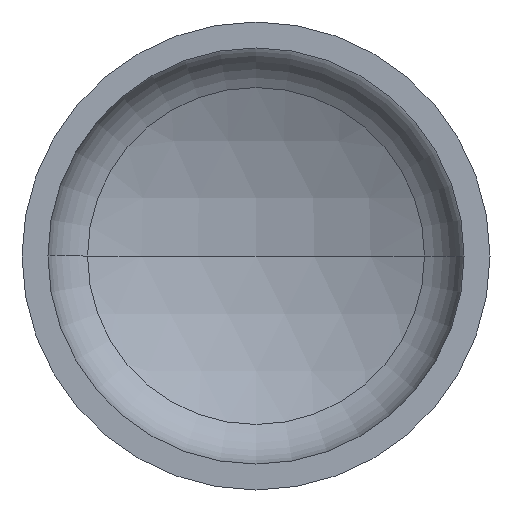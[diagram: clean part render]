
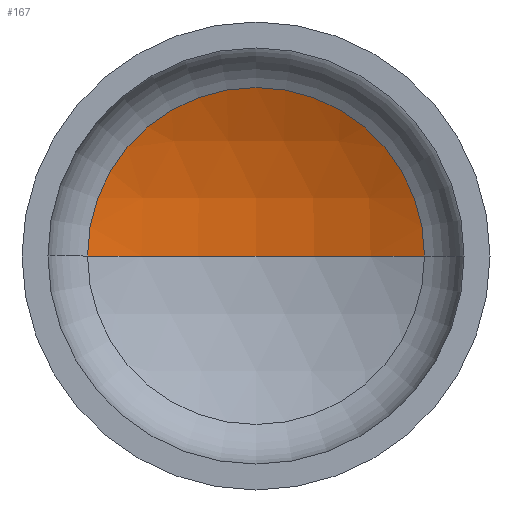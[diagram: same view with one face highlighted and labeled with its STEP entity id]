
A CAD part, front view. The second image highlights one B-rep face of the part: STEP entity #167.
In plain terms, the highlighted spherical face has radius 1040 mm.
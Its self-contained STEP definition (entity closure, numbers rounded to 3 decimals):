
#1 = CARTESIAN_POINT ( 'NONE',  ( 0., 298.606, 0. ) ) ;
#6 = VERTEX_POINT ( 'NONE', #234 ) ;
#18 = EDGE_LOOP ( 'NONE', ( #105, #97, #107 ) ) ;
#34 = VERTEX_POINT ( 'NONE', #230 ) ;
#40 = VERTEX_POINT ( 'NONE', #186 ) ;
#97 = ORIENTED_EDGE ( 'NONE', *, *, #218, .T. ) ;
#105 = ORIENTED_EDGE ( 'NONE', *, *, #236, .F. ) ;
#107 = ORIENTED_EDGE ( 'NONE', *, *, #176, .T. ) ;
#150 = DIRECTION ( 'NONE',  ( 0., -1., 0. ) ) ;
#152 = DIRECTION ( 'NONE',  ( -1., 0., 0. ) ) ;
#164 = CARTESIAN_POINT ( 'NONE',  ( 0., -630.144, 0. ) ) ;
#167 = ADVANCED_FACE ( 'NONE', ( #299 ), #367, .F. ) ;
#175 = DIRECTION ( 'NONE',  ( -1., 0., 0. ) ) ;
#176 = EDGE_CURVE ( 'NONE', #6, #40, #361, .T. ) ;
#179 = DIRECTION ( 'NONE',  ( 0., 0., -1. ) ) ;
#180 = CARTESIAN_POINT ( 'NONE',  ( 0., -630.144, 0. ) ) ;
#186 = CARTESIAN_POINT ( 'NONE',  ( -468., 298.606, 0. ) ) ;
#209 = DIRECTION ( 'NONE',  ( 1., 0., 0. ) ) ;
#213 = DIRECTION ( 'NONE',  ( 0., 0., 1. ) ) ;
#216 = CIRCLE ( 'NONE', #334, 1040. ) ;
#218 = EDGE_CURVE ( 'NONE', #34, #6, #355, .T. ) ;
#230 = CARTESIAN_POINT ( 'NONE',  ( 0., 409.856, 0. ) ) ;
#234 = CARTESIAN_POINT ( 'NONE',  ( 468., 298.606, 0. ) ) ;
#236 = EDGE_CURVE ( 'NONE', #34, #40, #216, .T. ) ;
#237 = DIRECTION ( 'NONE',  ( 1., 0., 0. ) ) ;
#260 = CARTESIAN_POINT ( 'NONE',  ( 0., -630.144, 0. ) ) ;
#279 = AXIS2_PLACEMENT_3D ( 'NONE', #1, #150, #237 ) ;
#291 = DIRECTION ( 'NONE',  ( 0., 0., -1. ) ) ;
#297 = AXIS2_PLACEMENT_3D ( 'NONE', #180, #291, #152 ) ;
#299 = FACE_OUTER_BOUND ( 'NONE', #18, .T. ) ;
#334 = AXIS2_PLACEMENT_3D ( 'NONE', #260, #213, #209 ) ;
#351 = AXIS2_PLACEMENT_3D ( 'NONE', #164, #179, #175 ) ;
#355 = CIRCLE ( 'NONE', #351, 1040. ) ;
#361 = CIRCLE ( 'NONE', #279, 468. ) ;
#367 = SPHERICAL_SURFACE ( 'NONE', #297, 1040. ) ;
